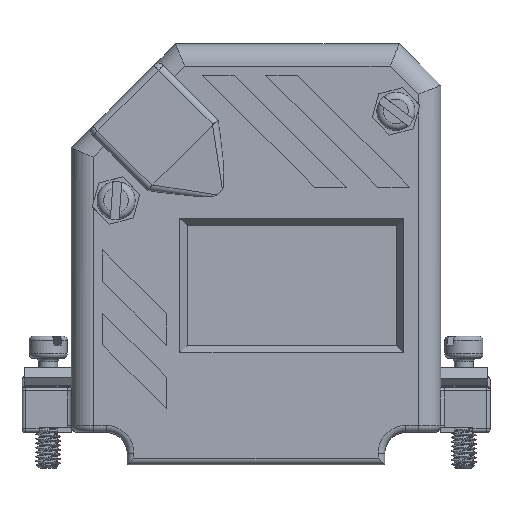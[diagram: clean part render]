
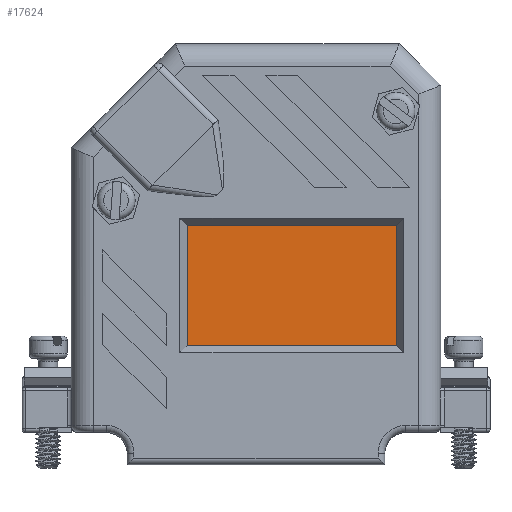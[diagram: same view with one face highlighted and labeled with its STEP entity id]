
A CAD part, top view. The second image highlights one B-rep face of the part: STEP entity #17624.
In plain terms, the highlighted planar face has unit normal (0, 0, 1).
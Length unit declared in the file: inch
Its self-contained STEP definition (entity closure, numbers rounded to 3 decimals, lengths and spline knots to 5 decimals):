
#17551=CARTESIAN_POINT('',(-0.308,-0.428,0.11));
#17552=VERTEX_POINT('',#17551);
#17559=CARTESIAN_POINT('',(-0.308,0.108,0.11));
#17560=VERTEX_POINT('',#17559);
#17561=CARTESIAN_POINT('',(-0.308,-0.428,0.11));
#17562=DIRECTION('',(0.0,1.0,0.0));
#17563=VECTOR('',#17562,0.536);
#17564=LINE('',#17561,#17563);
#17565=EDGE_CURVE('',#17552,#17560,#17564,.T.);
#17583=CARTESIAN_POINT('',(0.628,0.108,0.11));
#17584=VERTEX_POINT('',#17583);
#17585=CARTESIAN_POINT('',(-0.308,0.108,0.11));
#17586=DIRECTION('',(1.0,0.0,0.0));
#17587=VECTOR('',#17586,0.936);
#17588=LINE('',#17585,#17587);
#17589=EDGE_CURVE('',#17560,#17584,#17588,.T.);
#17601=CARTESIAN_POINT('',(0.16,-0.16,0.11));
#17602=DIRECTION('',(0.0,0.0,1.0));
#17603=DIRECTION('',(1.0,0.0,0.0));
#17604=AXIS2_PLACEMENT_3D('',#17601,#17602,#17603);
#17605=PLANE('',#17604);
#17606=ORIENTED_EDGE('',*,*,#17565,.F.);
#17607=CARTESIAN_POINT('',(0.628,-0.428,0.11));
#17608=VERTEX_POINT('',#17607);
#17609=CARTESIAN_POINT('',(0.628,-0.428,0.11));
#17610=DIRECTION('',(-1.0,0.0,0.0));
#17611=VECTOR('',#17610,0.936);
#17612=LINE('',#17609,#17611);
#17613=EDGE_CURVE('',#17608,#17552,#17612,.T.);
#17614=ORIENTED_EDGE('',*,*,#17613,.F.);
#17615=CARTESIAN_POINT('',(0.628,0.108,0.11));
#17616=DIRECTION('',(0.0,-1.0,0.0));
#17617=VECTOR('',#17616,0.536);
#17618=LINE('',#17615,#17617);
#17619=EDGE_CURVE('',#17584,#17608,#17618,.T.);
#17620=ORIENTED_EDGE('',*,*,#17619,.F.);
#17621=ORIENTED_EDGE('',*,*,#17589,.F.);
#17622=EDGE_LOOP('',(#17606,#17614,#17620,#17621));
#17623=FACE_OUTER_BOUND('',#17622,.T.);
#17624=ADVANCED_FACE('',(#17623),#17605,.T.);
